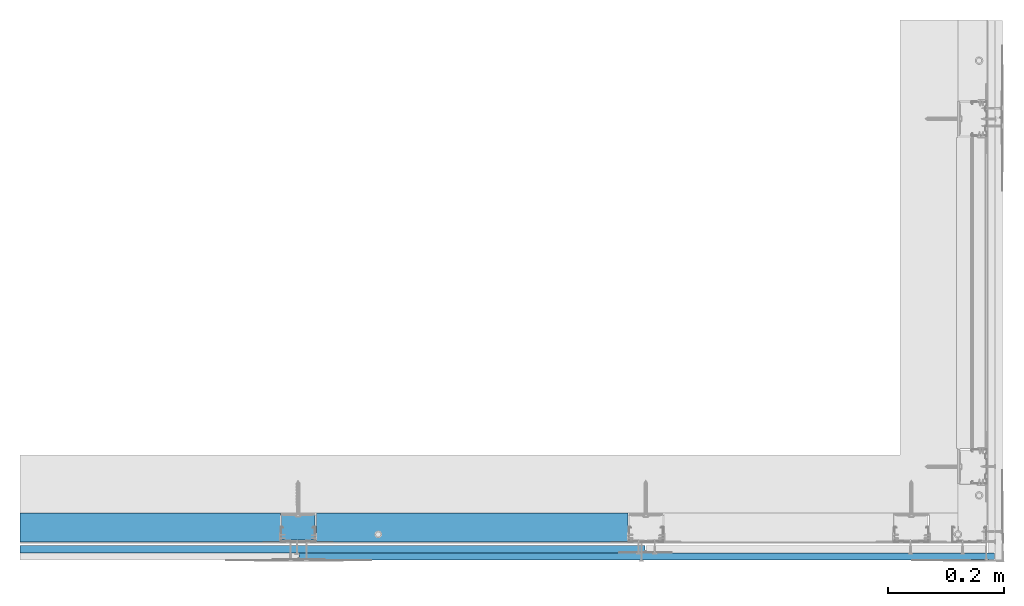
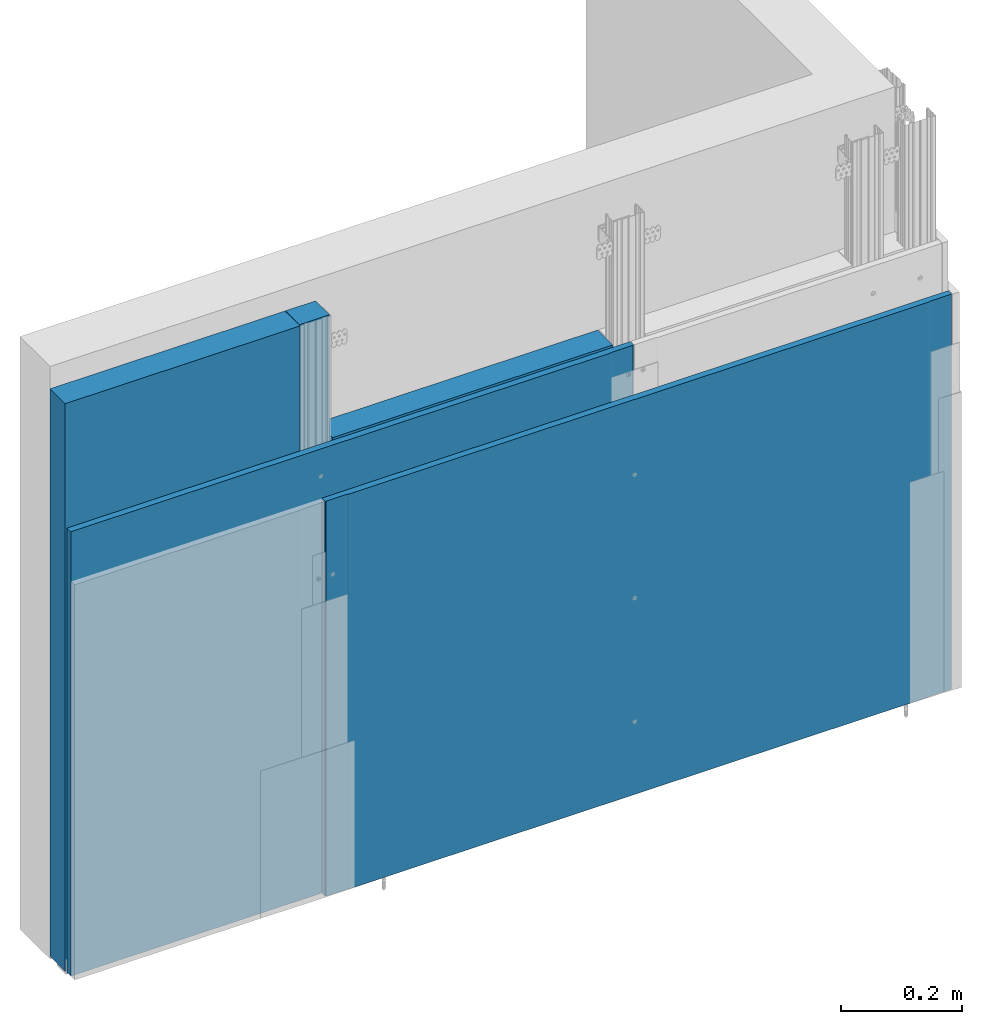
# One storey, part 2 of 56: 5 walls.
"""IFC2X3 building model written with IfcOpenShell, lengths in millimetres."""

from ifc_helpers import new_model, entity, si_unit, converted_unit, direction, frame, origin, origin_with_axes, place, context, project, spatial, faceted_brep, element, save


model = new_model("IFC2X3")

# Units and contexts
model_context = context("Model", 3, precision=1e-05, world=origin(), true_north=direction((0.0, 1.0, 0.0)))
ifc_project = project(units=[si_unit("LENGTHUNIT", "METRE", prefix="MILLI"), si_unit("AREAUNIT", "SQUARE_METRE"), si_unit("VOLUMEUNIT", "CUBIC_METRE"), converted_unit("PLANEANGLEUNIT", "DEGREE", entity("IfcPlaneAngleMeasure", 0.01745), si_unit("PLANEANGLEUNIT", "RADIAN"), dimensions=[0, 0, 0, 0, 0, 0, 0]), si_unit("SOLIDANGLEUNIT", "STERADIAN"), si_unit("MASSUNIT", "GRAM"), si_unit("TIMEUNIT", "SECOND"), si_unit("THERMODYNAMICTEMPERATUREUNIT", "DEGREE_CELSIUS"), si_unit("LUMINOUSINTENSITYUNIT", "LUMEN")], contexts=[model_context])

# Site, building, storey
site_placement = place(None, origin_with_axes())
site = spatial("IfcSite", under=ifc_project, at=site_placement, Name="Default Site", CompositionType="ELEMENT")
building_placement = place(site_placement, origin_with_axes())
building = spatial("IfcBuilding", under=site, at=building_placement, Name="Default Building", CompositionType="ELEMENT")
storey_placement = place(building_placement, origin_with_axes())
storey = spatial("IfcBuildingStorey", under=building, at=storey_placement, Name="Default Building Storey", CompositionType="ELEMENT", Elevation=0.0)

# Walls
wall_1_placement = place(storey_placement, frame((3806.098644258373, 1953.680077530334, 1031.41586844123), z_axis=(0.0, 0.0, 1.0), x_axis=(-1.0, -6.389333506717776e-13, 0.0)))
element("IfcWall", 1, at=wall_1_placement, inside=storey, Name="Płyta gipsowo-kartonowa RIGIPS PRO (4PRO™)", context=model_context, shape_type="Brep", body=[
    faceted_brep([(1199.866025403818, 10.99999999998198, -222.2222710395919), (1199.965925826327, 10.75881904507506, -222.2222710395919), (1199.965925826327, 10.75881904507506, -1022.223852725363), (1199.866025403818, 10.99999999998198, -1022.223852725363), (1199.707106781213, 11.20710678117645, -222.2222710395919), (1199.707106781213, 11.20710678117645, -1022.223852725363), (1199.50000000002, 11.36602540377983, -222.2222710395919), (1199.50000000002, 11.36602540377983, -1022.223852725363), (1199.258819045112, 11.46592582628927, -222.2222710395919), (1199.258819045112, 11.46592582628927, -1022.223852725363), (1199.0, 11.50000000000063, -222.2222710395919), (1199.0, 11.50000000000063, -1022.223852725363), (1158.999999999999, 11.50000000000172, -222.2222710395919), (1158.999999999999, 11.50000000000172, -1022.223852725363), (1155.000000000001, 12.49999999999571, -222.2222710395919), (1155.000000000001, 12.49999999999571, -1022.223852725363), (44.99999999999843, 12.50000000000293, -222.2222710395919), (44.99999999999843, 12.50000000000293, -1022.223852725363), (40.99999999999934, 11.50000000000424, -222.2222710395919), (40.99999999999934, 11.50000000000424, -1022.223852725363), (0.9999999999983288, 11.5000000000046, -222.2222710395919), (0.9999999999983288, 11.5000000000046, -1022.223852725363), (0.7411809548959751, 11.46592582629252, -222.2222710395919), (0.7411809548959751, 11.46592582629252, -1022.223852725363), (0.4999999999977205, 11.3660254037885, -222.2222710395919), (0.4999999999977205, 11.3660254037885, -1022.223852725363), (0.29289321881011, 11.20710678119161, -222.2222710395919), (0.29289321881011, 11.20710678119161, -1022.223852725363), (0.1339745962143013, 11.00000000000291, -222.2222710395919), (0.1339745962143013, 11.00000000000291, -1022.223852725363), (0.03407417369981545, 10.7588190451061, -222.2222710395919), (0.03407417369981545, 10.7588190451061, -1022.223852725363), (-2.887645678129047e-12, 10.50000000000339, -222.2222710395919), (-2.887645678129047e-12, 10.50000000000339, -1022.223852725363), (0.0, 0.0, -222.2222710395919), (0.0, 0.0, -1022.223852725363), (1200.0, 0.0, -222.2222710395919), (1200.0, 0.0, -1022.223852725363), (1200.000000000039, 10.49999999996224, -222.2222710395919), (1200.000000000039, 10.49999999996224, -1022.223852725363)], [[[0, 1, 2, 3]], [[4, 0, 3, 5]], [[6, 4, 5, 7]], [[8, 6, 7, 9]], [[10, 8, 9, 11]], [[12, 10, 11, 13]], [[14, 12, 13, 15]], [[16, 14, 15, 17]], [[18, 16, 17, 19]], [[20, 18, 19, 21]], [[22, 20, 21, 23]], [[24, 22, 23, 25]], [[26, 24, 25, 27]], [[28, 26, 27, 29]], [[30, 28, 29, 31]], [[32, 30, 31, 33]], [[34, 32, 33, 35]], [[36, 34, 35, 37]], [[38, 36, 37, 39]], [[1, 38, 39, 2]], [[2, 39, 37, 35, 33, 31, 29, 27, 25, 23, 21, 19, 17, 15, 13, 11, 9, 7, 5, 3]], [[12, 14, 16, 18, 20, 22, 24, 26, 28, 30, 32, 34, 36, 38, 1, 0, 4, 6, 8, 10]]]),
])
wall_2_placement = place(storey_placement, frame((3203.603518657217, 1966.180077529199, 1159.193597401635), z_axis=(0.0, 0.0, 1.0), x_axis=(-1.0, -6.389333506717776e-13, 0.0)))
element("IfcWall", 2, at=wall_2_placement, inside=storey, Name="Płyta gipsowo-kartonowa RIGIPS PRO (4PRO™)", context=model_context, shape_type="Brep", body=[
    faceted_brep([(1078.578385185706, 12.49999999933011, -250.0000000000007), (1078.578385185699, -6.713776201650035e-10, -250.0000000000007), (1078.578385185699, -6.710166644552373e-10, -1150.00158168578), (1078.578385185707, 12.49999999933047, -1150.00158168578), (0.0, 0.0, -249.9999999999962), (44.99999999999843, 12.50000000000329, -249.9999999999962), (40.99999999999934, 11.5000000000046, -249.9999999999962), (0.9999999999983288, 11.50000000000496, -249.9999999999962), (0.7411809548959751, 11.46592582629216, -249.9999999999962), (0.4999999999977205, 11.36602540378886, -249.9999999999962), (0.2928932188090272, 11.20710678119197, -249.9999999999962), (0.1339745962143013, 11.00000000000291, -249.9999999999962), (0.03407417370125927, 10.7588190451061, -249.9999999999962), (-3.97051280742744e-12, 10.50000000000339, -249.9999999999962), (44.99999999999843, 12.50000000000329, -1150.001581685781), (40.99999999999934, 11.5000000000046, -1150.001581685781), (0.9999999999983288, 11.50000000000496, -1150.001581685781), (0.7411809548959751, 11.46592582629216, -1150.001581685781), (0.4999999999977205, 11.36602540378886, -1150.001581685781), (0.2928932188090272, 11.20710678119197, -1150.001581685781), (0.1339745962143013, 11.00000000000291, -1150.001581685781), (0.03407417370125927, 10.7588190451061, -1150.001581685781), (-3.97051280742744e-12, 10.50000000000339, -1150.001581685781), (0.0, 0.0, -1150.001581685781)], [[[0, 1, 2, 3]], [[4, 1, 0, 5, 6, 7, 8, 9, 10, 11, 12, 13]], [[0, 3, 14, 5]], [[6, 5, 14, 15]], [[7, 6, 15, 16]], [[8, 7, 16, 17]], [[9, 8, 17, 18]], [[10, 9, 18, 19]], [[11, 10, 19, 20]], [[12, 11, 20, 21]], [[13, 12, 21, 22]], [[4, 13, 22, 23]], [[23, 2, 1, 4]], [[14, 3, 2, 23, 22, 21, 20, 19, 18, 17, 16, 15]]]),
])
wall_3_placement = place(storey_placement, frame((2468.668779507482, 5350.424146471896, -2.34999999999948), z_axis=(0.0, 0.0, 1.0), x_axis=(-1.0, 4.718447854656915e-16, 0.0)))
element("IfcWall", 3, at=wall_3_placement, inside=storey, Name="Wypełnienie z wełny mineralnej szklanej ISOVER", context=model_context, shape_type="Brep", body=[
    faceted_brep([(-168.1247796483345, 3328.2832237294, 10.28402578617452), (-168.124779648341, 3370.612995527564, 10.28402578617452), (-168.124779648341, 3370.612995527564, 911.5435974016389), (-168.1247796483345, 3328.2832237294, 911.5435974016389), (-705.1247796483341, 3378.283223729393, 911.5435974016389), (-168.1247796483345, 3378.283223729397, 911.5435974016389), (-168.1247796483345, 3378.283223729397, 10.28402578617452), (-705.1247796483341, 3378.283223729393, 10.28402578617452), (-705.1247796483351, 3328.283223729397, 911.5435974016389), (-705.1247796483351, 3328.283223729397, 10.28402578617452)], [[[0, 1, 2, 3]], [[4, 5, 6, 7]], [[8, 4, 7, 9]], [[6, 1, 0, 9, 7]], [[8, 3, 2, 5, 4]], [[9, 0, 3, 8]], [[2, 1, 6, 5]]]),
])
wall_4_placement = place(storey_placement, frame((2407.818779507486, 5350.424146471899, -2.350000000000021), z_axis=(0.0, 0.0, 1.0), x_axis=(-1.0, 4.718447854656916e-16, 0.0)))
element("IfcWall", 4, at=wall_4_placement, inside=storey, Name="Wypełnienie z wełny mineralnej szklanej ISOVER", context=model_context, shape_type="Brep", body=[
    faceted_brep([(-168.1247796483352, 3328.283223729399, 7.899999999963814), (-168.1247796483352, 3328.283223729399, 1159.73402578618), (-225.8247796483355, 3328.283223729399, 1159.73402578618), (-225.8247796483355, 3328.283223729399, 954.0015786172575), (-225.8247796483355, 3328.283223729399, 7.899999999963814), (-168.1247796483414, 3370.612995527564, 7.899999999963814), (-168.1247796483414, 3370.612995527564, 1159.73402578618), (-225.8247796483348, 3374.8332237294, 1159.73402578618), (-168.1247796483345, 3374.833223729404, 1159.73402578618), (-168.1247796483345, 3374.833223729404, 7.899999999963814), (-225.8247796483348, 3374.8332237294, 7.899999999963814)], [[[0, 1, 2, 3, 4]], [[0, 5, 6, 1]], [[7, 8, 9, 10]], [[2, 7, 10, 4, 3]], [[9, 5, 0, 4, 10]], [[2, 1, 6, 8, 7]], [[6, 5, 9, 8]]]),
])
wall_5_placement = place(storey_placement, frame((1869.668779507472, 5350.424146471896, -2.349999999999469), z_axis=(0.0, 0.0, 1.0), x_axis=(-1.0, 4.718447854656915e-16, 0.0)))
element("IfcWall", 5, at=wall_5_placement, inside=storey, Name="Wypełnienie z wełny mineralnej szklanej ISOVER", context=model_context, shape_type="Brep", body=[
    faceted_brep([(-705.1247796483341, 3378.283223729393, 1159.734025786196), (-255.3563539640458, 3378.283223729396, 1159.734025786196), (-255.3563539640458, 3378.283223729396, 10.28402578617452), (-705.1247796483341, 3378.283223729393, 10.28402578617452), (-705.1247796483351, 3328.283223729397, 1159.734025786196), (-705.1247796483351, 3328.283223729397, 10.28402578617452), (-255.3563539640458, 3328.283223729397, 10.28402578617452), (-255.3563539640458, 3328.283223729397, 1159.734025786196)], [[[0, 1, 2, 3]], [[4, 0, 3, 5]], [[2, 6, 5, 3]], [[4, 7, 1, 0]], [[5, 6, 7, 4]], [[1, 7, 6, 2]]]),
])

save(model, "model.ifc")
